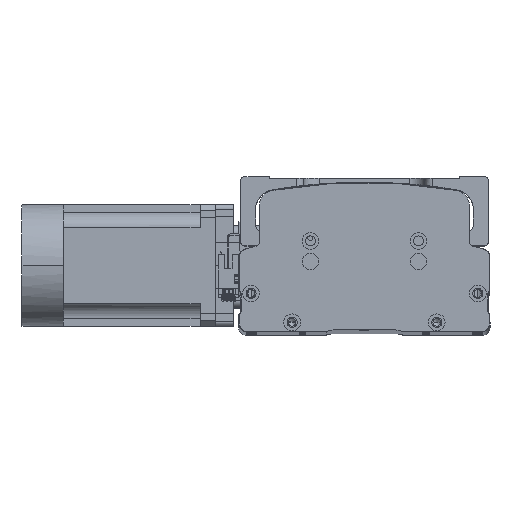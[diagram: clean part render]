
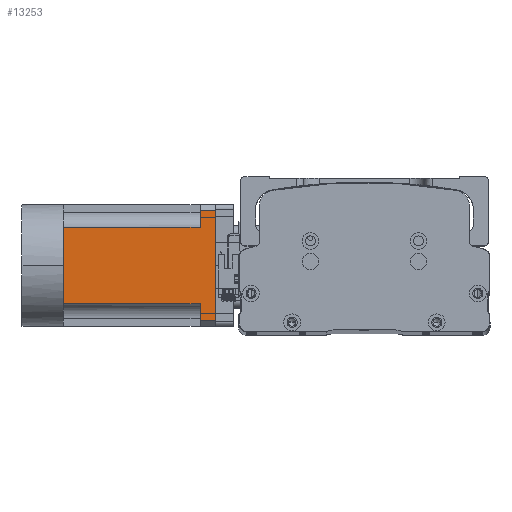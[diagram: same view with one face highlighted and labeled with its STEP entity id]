
A CAD part, top view. The second image highlights one B-rep face of the part: STEP entity #13253.
In plain terms, the highlighted planar face has unit normal (0, -0.003, 1) as drawn and (0, 0, -1) by its records, which use the part's own axes.
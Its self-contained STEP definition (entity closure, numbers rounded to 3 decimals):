
#2 = CARTESIAN_POINT ( 'NONE',  ( -25., 0., -40. ) ) ;
#215 = VERTEX_POINT ( 'NONE', #8731 ) ;
#1035 = DIRECTION ( 'NONE',  ( -1., 0., 0. ) ) ;
#2096 = EDGE_CURVE ( 'NONE', #50256, #31812, #36112, .T. ) ;
#2454 = LINE ( 'NONE', #19087, #31539 ) ;
#3177 = CARTESIAN_POINT ( 'NONE',  ( 25., 90., -40. ) ) ;
#3216 = VECTOR ( 'NONE', #1035, 1000. ) ;
#3800 = VERTEX_POINT ( 'NONE', #7508 ) ;
#4345 = DIRECTION ( 'NONE',  ( 0., 1., 0. ) ) ;
#4856 = CARTESIAN_POINT ( 'NONE',  ( -40., 90., -40. ) ) ;
#5225 = ORIENTED_EDGE ( 'NONE', *, *, #2096, .T. ) ;
#5675 = LINE ( 'NONE', #36392, #3216 ) ;
#5890 = ORIENTED_EDGE ( 'NONE', *, *, #43565, .T. ) ;
#7040 = VERTEX_POINT ( 'NONE', #2 ) ;
#7226 = CARTESIAN_POINT ( 'NONE',  ( 25., 0., -40. ) ) ;
#7508 = CARTESIAN_POINT ( 'NONE',  ( 36., 100., -40. ) ) ;
#8731 = CARTESIAN_POINT ( 'NONE',  ( 36., 90., -40. ) ) ;
#8760 = ORIENTED_EDGE ( 'NONE', *, *, #40208, .T. ) ;
#10112 = AXIS2_PLACEMENT_3D ( 'NONE', #15295, #38890, #50789 ) ;
#11676 = VERTEX_POINT ( 'NONE', #46720 ) ;
#12197 = DIRECTION ( 'NONE',  ( -1., 0., 0. ) ) ;
#13240 = VERTEX_POINT ( 'NONE', #3177 ) ;
#13253 = ADVANCED_FACE ( 'NONE', ( #44253 ), #46848, .T. ) ;
#13894 = CARTESIAN_POINT ( 'NONE',  ( 25., -27., -40. ) ) ;
#14876 = ORIENTED_EDGE ( 'NONE', *, *, #41563, .F. ) ;
#15295 = CARTESIAN_POINT ( 'NONE',  ( -40., -27., -40. ) ) ;
#15542 = DIRECTION ( 'NONE',  ( 0., 1., 0. ) ) ;
#16447 = VECTOR ( 'NONE', #12197, 1000. ) ;
#16563 = VECTOR ( 'NONE', #48391, 1000. ) ;
#16851 = DIRECTION ( 'NONE',  ( -1., 0., 0. ) ) ;
#17752 = VECTOR ( 'NONE', #4345, 1000. ) ;
#19087 = CARTESIAN_POINT ( 'NONE',  ( 36., -27., -40. ) ) ;
#19932 = EDGE_CURVE ( 'NONE', #7040, #50256, #38697, .T. ) ;
#20004 = EDGE_CURVE ( 'NONE', #215, #13240, #51009, .T. ) ;
#20839 = CARTESIAN_POINT ( 'NONE',  ( -40., 0., -40. ) ) ;
#21347 = VECTOR ( 'NONE', #49208, 1000. ) ;
#22168 = CARTESIAN_POINT ( 'NONE',  ( -36., 90., -40. ) ) ;
#22344 = LINE ( 'NONE', #49916, #50050 ) ;
#23035 = DIRECTION ( 'NONE',  ( 0., -1., 0. ) ) ;
#23297 = CARTESIAN_POINT ( 'NONE',  ( -36., -27., -40. ) ) ;
#25321 = EDGE_LOOP ( 'NONE', ( #14876, #36369, #38443, #8760, #40678, #27730, #45458, #5225, #5890 ) ) ;
#27730 = ORIENTED_EDGE ( 'NONE', *, *, #28507, .T. ) ;
#28038 = CARTESIAN_POINT ( 'NONE',  ( -25., -27., -40. ) ) ;
#28453 = CARTESIAN_POINT ( 'NONE',  ( -25., 90., -40. ) ) ;
#28507 = EDGE_CURVE ( 'NONE', #11676, #7040, #22344, .T. ) ;
#31539 = VECTOR ( 'NONE', #23035, 1000. ) ;
#31812 = VERTEX_POINT ( 'NONE', #22168 ) ;
#34376 = EDGE_CURVE ( 'NONE', #3800, #215, #2454, .T. ) ;
#34827 = VERTEX_POINT ( 'NONE', #7226 ) ;
#35659 = EDGE_CURVE ( 'NONE', #34827, #11676, #37472, .T. ) ;
#36112 = LINE ( 'NONE', #39744, #16447 ) ;
#36251 = CARTESIAN_POINT ( 'NONE',  ( -36., 100., -40. ) ) ;
#36369 = ORIENTED_EDGE ( 'NONE', *, *, #34376, .T. ) ;
#36392 = CARTESIAN_POINT ( 'NONE',  ( -40., 100., -40. ) ) ;
#36634 = VERTEX_POINT ( 'NONE', #36251 ) ;
#36931 = VECTOR ( 'NONE', #15542, 1000. ) ;
#37472 = LINE ( 'NONE', #20839, #16563 ) ;
#38204 = DIRECTION ( 'NONE',  ( -1., 0., 0. ) ) ;
#38443 = ORIENTED_EDGE ( 'NONE', *, *, #20004, .T. ) ;
#38697 = LINE ( 'NONE', #28038, #17752 ) ;
#38890 = DIRECTION ( 'NONE',  ( 0., 0., -1. ) ) ;
#39744 = CARTESIAN_POINT ( 'NONE',  ( -40., 90., -40. ) ) ;
#40208 = EDGE_CURVE ( 'NONE', #13240, #34827, #42306, .T. ) ;
#40535 = VECTOR ( 'NONE', #16851, 1000. ) ;
#40678 = ORIENTED_EDGE ( 'NONE', *, *, #35659, .T. ) ;
#41563 = EDGE_CURVE ( 'NONE', #3800, #36634, #5675, .T. ) ;
#42306 = LINE ( 'NONE', #13894, #21347 ) ;
#43565 = EDGE_CURVE ( 'NONE', #31812, #36634, #48675, .T. ) ;
#44253 = FACE_OUTER_BOUND ( 'NONE', #25321, .T. ) ;
#45458 = ORIENTED_EDGE ( 'NONE', *, *, #19932, .T. ) ;
#46720 = CARTESIAN_POINT ( 'NONE',  ( 0., 0., -40. ) ) ;
#46848 = PLANE ( 'NONE',  #10112 ) ;
#48391 = DIRECTION ( 'NONE',  ( -1., 0., 0. ) ) ;
#48675 = LINE ( 'NONE', #23297, #36931 ) ;
#49208 = DIRECTION ( 'NONE',  ( 0., -1., 0. ) ) ;
#49916 = CARTESIAN_POINT ( 'NONE',  ( -40., 0., -40. ) ) ;
#50050 = VECTOR ( 'NONE', #38204, 1000. ) ;
#50256 = VERTEX_POINT ( 'NONE', #28453 ) ;
#50789 = DIRECTION ( 'NONE',  ( -1., 0., 0. ) ) ;
#51009 = LINE ( 'NONE', #4856, #40535 ) ;
